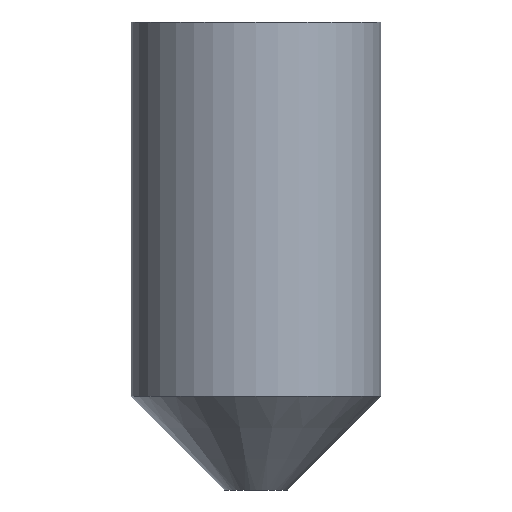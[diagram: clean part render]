
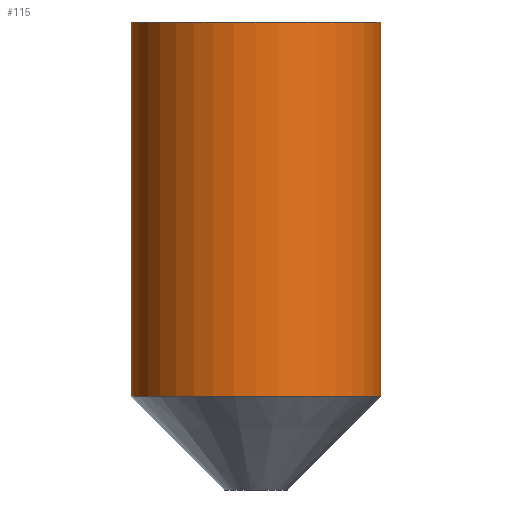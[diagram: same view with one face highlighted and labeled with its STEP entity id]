
A CAD part, front view. The second image highlights one B-rep face of the part: STEP entity #115.
In plain terms, the highlighted cylindrical face has radius 4 mm (diameter 8 mm), a full revolution.
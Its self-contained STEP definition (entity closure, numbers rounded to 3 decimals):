
#73=CARTESIAN_POINT('',(4.0,0.,3.0));
#74=VERTEX_POINT('',#73);
#75=CARTESIAN_POINT('',(0.0,0.0,3.0));
#76=DIRECTION('',(0.0,0.0,-1.0));
#77=DIRECTION('',(-1.0,0.0,0.0));
#78=AXIS2_PLACEMENT_3D('',#75,#76,#77);
#79=CIRCLE('',#78,4.0);
#80=EDGE_CURVE('',#74,#74,#79,.T.);
#96=CARTESIAN_POINT('',(0.0,0.0,0.0));
#97=DIRECTION('',(0.0,0.0,1.0));
#98=DIRECTION('',(-1.0,0.0,0.0));
#99=AXIS2_PLACEMENT_3D('',#96,#97,#98);
#100=CYLINDRICAL_SURFACE('',#99,4.0);
#101=CARTESIAN_POINT('',(4.0,0.,15.0));
#102=VERTEX_POINT('',#101);
#103=CARTESIAN_POINT('',(0.0,0.0,15.0));
#104=DIRECTION('',(0.0,0.0,-1.0));
#105=DIRECTION('',(-1.0,0.0,0.0));
#106=AXIS2_PLACEMENT_3D('',#103,#104,#105);
#107=CIRCLE('',#106,4.0);
#108=EDGE_CURVE('',#102,#102,#107,.T.);
#109=ORIENTED_EDGE('',*,*,#108,.T.);
#110=EDGE_LOOP('',(#109));
#111=FACE_OUTER_BOUND('',#110,.T.);
#112=ORIENTED_EDGE('',*,*,#80,.F.);
#113=EDGE_LOOP('',(#112));
#114=FACE_BOUND('',#113,.T.);
#115=ADVANCED_FACE('',(#111,#114),#100,.T.);
